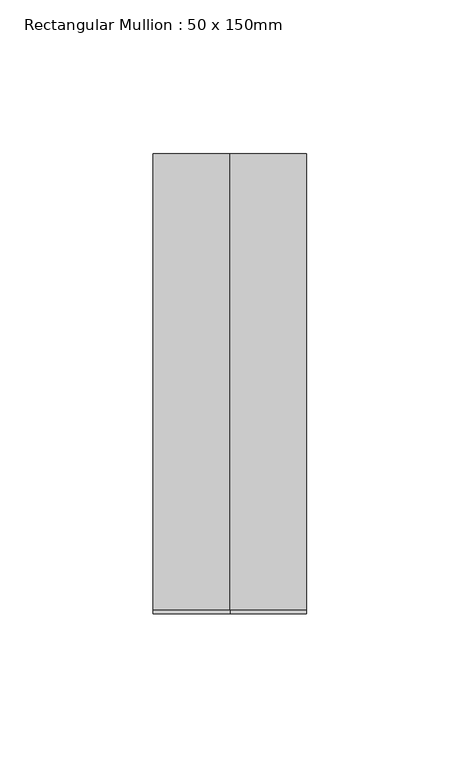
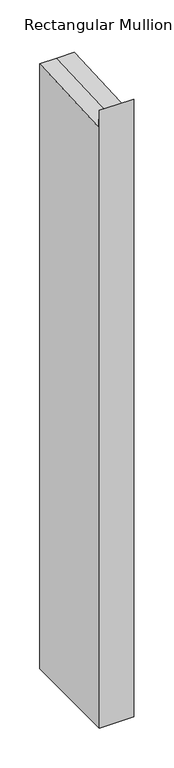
"""IFC4 building model written with IfcOpenShell, lengths in millimetres: member geometry, Rectangular Mullion : 50 x 150mm."""

from ifc_helpers import new_model, si_unit, origin, place, context, project, spatial, faceted_brep, source, transform, mapped, element, save


def rectangular_mullion_50_x_150mm_f8023bcf(model_context):
    return source(origin(), model_context, "Body", "Brep", [
        faceted_brep([(25.0, 75.0, -925.0), (25.0, -75.0, -925.0), (-25.0, -75.0, -925.0), (-25.0, 75.0, -925.0), (-25.0, 75.0, 3.7233876), (0.0, 75.0, 3.7233876), (25.0, 75.0, 3.7233876), (-25.0, -75.0, 23.1238267), (-25.0, -73.6561913, -3.7187304), (25.0, -75.0, 23.1238267), (0.0, -75.0, 23.1238267), (25.0, -73.6561913, -3.7187304), (0.0, -73.6561913, -3.7187304)], [[[0, 1, 2, 3]], [[4, 5, 6, 0, 3]], [[7, 8, 4, 3, 2]], [[9, 10, 7, 2, 1]], [[6, 11, 9, 1, 0]], [[6, 5, 12, 11]], [[5, 4, 8, 12]], [[8, 7, 10, 12]], [[10, 9, 11, 12]]]),
    ])


if __name__ == "__main__":
    model = new_model("IFC4")
    model_context = context("Model", 3, world=origin())
    ifc_project = project(units=[si_unit("LENGTHUNIT", "METRE", prefix="MILLI")], contexts=[model_context])
    site = spatial("IfcSite", under=ifc_project)
    building = spatial("IfcBuilding", under=site)
    placement = place(None, origin())
    rectangular_mullion_50_x_150mm_shape = rectangular_mullion_50_x_150mm_f8023bcf(model_context)
    element("IfcMember", 1, ObjectType="Rectangular Mullion : 50 x 150mm", at=placement, inside=building, context=model_context, shape_type="MappedRepresentation", body=[
        mapped(rectangular_mullion_50_x_150mm_shape, transform((0.0, 0.0, 0.0), x_axis=(1.0, 0.0, 0.0), y_axis=(0.0, 1.0, 0.0), z_axis=(0.0, 0.0, 1.0))),
    ])
    save(model, "model.ifc")
